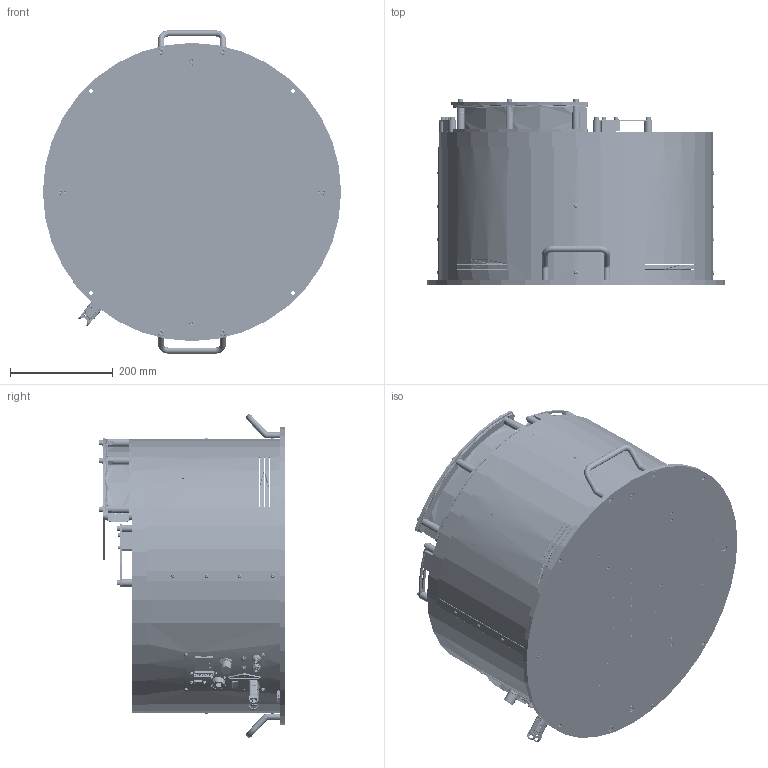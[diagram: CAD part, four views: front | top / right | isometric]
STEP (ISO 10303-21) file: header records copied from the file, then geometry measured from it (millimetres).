
FILE_DESCRIPTION (( 'STEP AP214' ), '1' );
FILE_NAME ('GM000021_FB500CC V2.2.STEP', '2023-09-18T15:23:33', ( '' ), ( '' ), 'SwSTEP 2.0', 'SolidWorks 2022', '' );
FILE_SCHEMA (( 'AUTOMOTIVE_DESIGN' ));
Length unit declared in the file: millimetre
Products named in the file (83): CM000008_004; CM000026; PD005827; CM000024; Copia di CE000327^CE000327; CM000008_001; PD000031; CM000037; PD001424; CM000015_001; CM000686_001; CM000642; CM000686; PD001356; PD006073; Copia di 43025-0600^CE000461; CM000043; CM000008_002; CE000316; PD006088; CM000170; CM000908; CE000013; Copia di 39-01-2025^CE000463; CM000940; PD001112; CE000327; CM000015; CE000007; Copia di Guaina^CE000461; PD001119; CM000015_002; PD000709; Copia di 43025-1600^CE000463; CE000030; CM000091; CM000050; PD006085; PD001071; CM000031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
Assembly tree (176 placements, depth 3):
  CM000940
  GM000021_FB500CC V2.2
    CM000032  x4
    CM000031  x7
    CM000048  x12
    CM000170  x4
    CM000050  x3
    CM000166  x12
    CM000642  x4
    CM000027  x4
    CM000021  x8
    CM000024  x10
    CM000026  x10
    CM000025  x4
    CM000043  x2
    CM000006  x4
    CM000051  x5
    CM000091
    CM000037  x3
    CM000908
    CM000299
    CM000015  x2
      CM000015_001
      CM000015_002
    CM000099
    CE000327
      Copia di CE000327^CE000327
      Copia di 39-01-2025^CE000327
    CE000326
      Copia di Led RDY_FLT^CE000326
      Copia di 39-01-2045^CE000326
    CE000461
      Copia di CE000325^CE000461
      Copia di 43025-0600^CE000461
      Copia di Guaina^CE000461
    CE000463
      Copia di connector_a-ds_25_pp-f^CE000463
      Copia di Connettore te 2 poli - Copia^CE000463
      Copia di 39-01-2025^CE000463
      Copia di 43025-1600^CE000463
      Copia di Guaina^CE000463
    PD001071
    CM000001  x2
    PD001440  x4
    PD006086
    PD006085
    PD006073  x2
    PD001650
    PD000709
    PD000031
    PD001106
    PD001112
    PD001059
    PD000043  x4
    PD001118  x2
    PD001119  x2
    PD001424
    PD001425
    CE000078
    PD001360_FB500
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Bounding box: 580 x 362 x 628.99 mm (x, y, z)
Volume: 6855395 mm3; surface area: 2938120 mm2
Topology: 180 solids, 199 shells, 10792 faces, 28061 edges, 18174 vertices
Faces by surface type: plane 5670, cylinder 2594, bspline 1212, cone 948, torus 341, sphere 27
Entity records: 439346 total; most frequent: CARTESIAN_POINT 182112, ORIENTED_EDGE 45580, DIRECTION 35737, EDGE_CURVE 22992, VERTEX_POINT 15323, AXIS2_PLACEMENT_3D 12034, LINE 11669, VECTOR 11669
